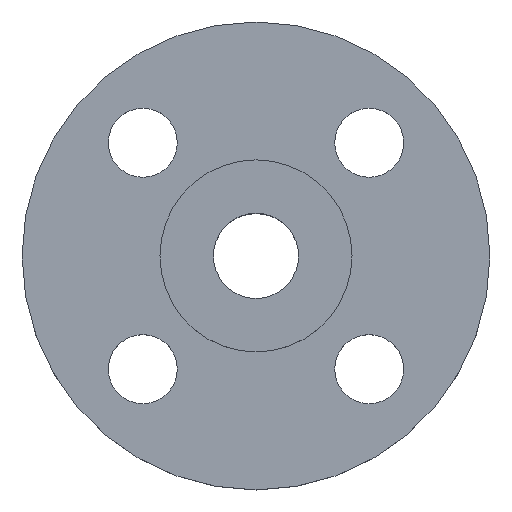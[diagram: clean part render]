
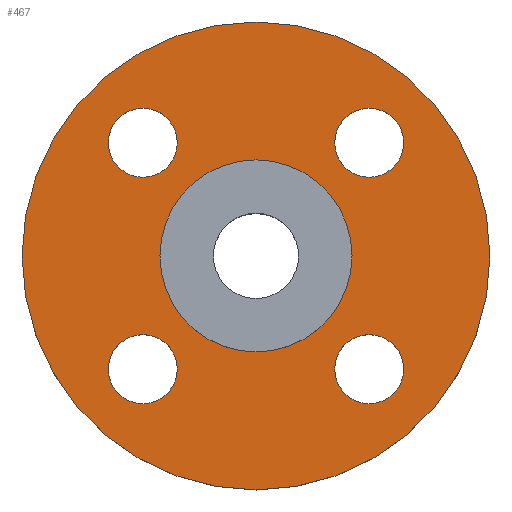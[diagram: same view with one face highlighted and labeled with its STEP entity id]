
A CAD part, top view. The second image highlights one B-rep face of the part: STEP entity #467.
In plain terms, the highlighted planar face has unit normal (0, 0, 1).
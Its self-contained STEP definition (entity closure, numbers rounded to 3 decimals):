
#1 = EDGE_CURVE ( 'NONE', #665, #774, #502, .T. ) ;
#2 = AXIS2_PLACEMENT_3D ( 'NONE', #354, #356, #357 ) ;
#18 = EDGE_CURVE ( 'NONE', #583, #641, #309, .T. ) ;
#30 = CIRCLE ( 'NONE', #31, 19.5 ) ;
#31 = AXIS2_PLACEMENT_3D ( 'NONE', #489, #490, #491 ) ;
#43 = EDGE_CURVE ( 'NONE', #609, #771, #376, .T. ) ;
#45 = CARTESIAN_POINT ( 'NONE',  ( -29.981, -22.981, -4.5 ) ) ;
#46 = CARTESIAN_POINT ( 'NONE',  ( -47.5, 0., -4.5 ) ) ;
#47 = CIRCLE ( 'NONE', #48, 7. ) ;
#48 = AXIS2_PLACEMENT_3D ( 'NONE', #329, #330, #328 ) ;
#89 = CARTESIAN_POINT ( 'NONE',  ( -22.981, 22.981, -4.5 ) ) ;
#92 = AXIS2_PLACEMENT_3D ( 'NONE', #89, #167, #336 ) ;
#94 = CIRCLE ( 'NONE', #92, 7. ) ;
#103 = AXIS2_PLACEMENT_3D ( 'NONE', #129, #128, #127 ) ;
#105 = AXIS2_PLACEMENT_3D ( 'NONE', #435, #446, #448 ) ;
#106 = CIRCLE ( 'NONE', #105, 7. ) ;
#127 = DIRECTION ( 'NONE',  ( 1., 0., 0. ) ) ;
#128 = DIRECTION ( 'NONE',  ( 0., 0., -1. ) ) ;
#129 = CARTESIAN_POINT ( 'NONE',  ( 22.981, 22.981, -4.5 ) ) ;
#139 = DIRECTION ( 'NONE',  ( 1., 0., 0. ) ) ;
#141 = EDGE_CURVE ( 'NONE', #770, #629, #161, .T. ) ;
#143 = CARTESIAN_POINT ( 'NONE',  ( -19.5, 0., -4.5 ) ) ;
#154 = CARTESIAN_POINT ( 'NONE',  ( 29.981, 22.981, -4.5 ) ) ;
#157 = AXIS2_PLACEMENT_3D ( 'NONE', #321, #561, #139 ) ;
#161 = CIRCLE ( 'NONE', #2, 7. ) ;
#166 = CARTESIAN_POINT ( 'NONE',  ( 47.5, 0., -4.5 ) ) ;
#167 = DIRECTION ( 'NONE',  ( 0., 0., -1. ) ) ;
#168 = CARTESIAN_POINT ( 'NONE',  ( 29.981, -22.981, -4.5 ) ) ;
#171 = DIRECTION ( 'NONE',  ( -1., 0., 0. ) ) ;
#172 = AXIS2_PLACEMENT_3D ( 'NONE', #807, #808, #809 ) ;
#173 = DIRECTION ( 'NONE',  ( 0., 0., -1. ) ) ;
#175 = CARTESIAN_POINT ( 'NONE',  ( 0., 0., -4.5 ) ) ;
#196 = CIRCLE ( 'NONE', #157, 7. ) ;
#224 = AXIS2_PLACEMENT_3D ( 'NONE', #814, #815, #816 ) ;
#227 = AXIS2_PLACEMENT_3D ( 'NONE', #252, #251, #249 ) ;
#246 = CARTESIAN_POINT ( 'NONE',  ( 15.981, 22.981, -4.5 ) ) ;
#249 = DIRECTION ( 'NONE',  ( -1., 0., 0. ) ) ;
#251 = DIRECTION ( 'NONE',  ( 0., 0., -1. ) ) ;
#252 = CARTESIAN_POINT ( 'NONE',  ( 0., 0., -4.5 ) ) ;
#270 = CARTESIAN_POINT ( 'NONE',  ( -29.981, 22.981, -4.5 ) ) ;
#298 = EDGE_CURVE ( 'NONE', #610, #568, #106, .T. ) ;
#304 = CIRCLE ( 'NONE', #227, 47.5 ) ;
#309 = CIRCLE ( 'NONE', #172, 7. ) ;
#317 = CARTESIAN_POINT ( 'NONE',  ( 15.981, -22.981, -4.5 ) ) ;
#318 = CARTESIAN_POINT ( 'NONE',  ( 19.5, 0., -4.5 ) ) ;
#321 = CARTESIAN_POINT ( 'NONE',  ( -22.981, -22.981, -4.5 ) ) ;
#324 = AXIS2_PLACEMENT_3D ( 'NONE', #175, #173, #171 ) ;
#328 = DIRECTION ( 'NONE',  ( 1., 0., 0. ) ) ;
#329 = CARTESIAN_POINT ( 'NONE',  ( 22.981, -22.981, -4.5 ) ) ;
#330 = DIRECTION ( 'NONE',  ( 0., 0., -1. ) ) ;
#336 = DIRECTION ( 'NONE',  ( 1., 0., 0. ) ) ;
#354 = CARTESIAN_POINT ( 'NONE',  ( 22.981, -22.981, -4.5 ) ) ;
#355 = CIRCLE ( 'NONE', #324, 19.5 ) ;
#356 = DIRECTION ( 'NONE',  ( 0., 0., -1. ) ) ;
#357 = DIRECTION ( 'NONE',  ( 1., 0., 0. ) ) ;
#375 = CIRCLE ( 'NONE', #103, 7. ) ;
#376 = CIRCLE ( 'NONE', #224, 47.5 ) ;
#382 = AXIS2_PLACEMENT_3D ( 'NONE', #507, #508, #509 ) ;
#408 = CARTESIAN_POINT ( 'NONE',  ( -15.981, 22.981, -4.5 ) ) ;
#430 = EDGE_CURVE ( 'NONE', #574, #783, #30, .T. ) ;
#435 = CARTESIAN_POINT ( 'NONE',  ( -22.981, -22.981, -4.5 ) ) ;
#446 = DIRECTION ( 'NONE',  ( 0., 0., -1. ) ) ;
#448 = DIRECTION ( 'NONE',  ( 1., 0., 0. ) ) ;
#467 = ADVANCED_FACE ( 'NONE', ( #499, #500, #501, #503, #504, #505 ), #506, .T. ) ;
#488 = AXIS2_PLACEMENT_3D ( 'NONE', #794, #795, #796 ) ;
#489 = CARTESIAN_POINT ( 'NONE',  ( 0., 0., -4.5 ) ) ;
#490 = DIRECTION ( 'NONE',  ( 0., 0., -1. ) ) ;
#491 = DIRECTION ( 'NONE',  ( -1., 0., 0. ) ) ;
#499 = FACE_BOUND ( 'NONE', #789, .T. ) ;
#500 = FACE_BOUND ( 'NONE', #597, .T. ) ;
#501 = FACE_BOUND ( 'NONE', #611, .T. ) ;
#502 = CIRCLE ( 'NONE', #488, 7. ) ;
#503 = FACE_BOUND ( 'NONE', #576, .T. ) ;
#504 = FACE_BOUND ( 'NONE', #780, .T. ) ;
#505 = FACE_OUTER_BOUND ( 'NONE', #784, .T. ) ;
#506 = PLANE ( 'NONE',  #382 ) ;
#507 = CARTESIAN_POINT ( 'NONE',  ( 19.5, 0., -4.5 ) ) ;
#508 = DIRECTION ( 'NONE',  ( 0., 0., 1. ) ) ;
#509 = DIRECTION ( 'NONE',  ( 1., 0., 0. ) ) ;
#551 = EDGE_CURVE ( 'NONE', #641, #583, #94, .T. ) ;
#552 = EDGE_CURVE ( 'NONE', #629, #770, #47, .T. ) ;
#556 = EDGE_CURVE ( 'NONE', #568, #610, #196, .T. ) ;
#561 = DIRECTION ( 'NONE',  ( 0., 0., -1. ) ) ;
#568 = VERTEX_POINT ( 'NONE', #823 ) ;
#574 = VERTEX_POINT ( 'NONE', #318 ) ;
#576 = EDGE_LOOP ( 'NONE', ( #739, #740 ) ) ;
#583 = VERTEX_POINT ( 'NONE', #408 ) ;
#597 = EDGE_LOOP ( 'NONE', ( #735, #736 ) ) ;
#609 = VERTEX_POINT ( 'NONE', #46 ) ;
#610 = VERTEX_POINT ( 'NONE', #45 ) ;
#611 = EDGE_LOOP ( 'NONE', ( #737, #738 ) ) ;
#629 = VERTEX_POINT ( 'NONE', #317 ) ;
#641 = VERTEX_POINT ( 'NONE', #270 ) ;
#661 = EDGE_CURVE ( 'NONE', #771, #609, #304, .T. ) ;
#665 = VERTEX_POINT ( 'NONE', #246 ) ;
#733 = ORIENTED_EDGE ( 'NONE', *, *, #141, .T. ) ;
#734 = ORIENTED_EDGE ( 'NONE', *, *, #552, .T. ) ;
#735 = ORIENTED_EDGE ( 'NONE', *, *, #556, .T. ) ;
#736 = ORIENTED_EDGE ( 'NONE', *, *, #298, .T. ) ;
#737 = ORIENTED_EDGE ( 'NONE', *, *, #18, .T. ) ;
#738 = ORIENTED_EDGE ( 'NONE', *, *, #551, .T. ) ;
#739 = ORIENTED_EDGE ( 'NONE', *, *, #810, .T. ) ;
#740 = ORIENTED_EDGE ( 'NONE', *, *, #1, .T. ) ;
#741 = ORIENTED_EDGE ( 'NONE', *, *, #763, .T. ) ;
#742 = ORIENTED_EDGE ( 'NONE', *, *, #430, .T. ) ;
#743 = ORIENTED_EDGE ( 'NONE', *, *, #661, .F. ) ;
#744 = ORIENTED_EDGE ( 'NONE', *, *, #43, .F. ) ;
#763 = EDGE_CURVE ( 'NONE', #783, #574, #355, .T. ) ;
#770 = VERTEX_POINT ( 'NONE', #168 ) ;
#771 = VERTEX_POINT ( 'NONE', #166 ) ;
#774 = VERTEX_POINT ( 'NONE', #154 ) ;
#780 = EDGE_LOOP ( 'NONE', ( #741, #742 ) ) ;
#783 = VERTEX_POINT ( 'NONE', #143 ) ;
#784 = EDGE_LOOP ( 'NONE', ( #743, #744 ) ) ;
#789 = EDGE_LOOP ( 'NONE', ( #733, #734 ) ) ;
#794 = CARTESIAN_POINT ( 'NONE',  ( 22.981, 22.981, -4.5 ) ) ;
#795 = DIRECTION ( 'NONE',  ( 0., 0., -1. ) ) ;
#796 = DIRECTION ( 'NONE',  ( 1., 0., 0. ) ) ;
#807 = CARTESIAN_POINT ( 'NONE',  ( -22.981, 22.981, -4.5 ) ) ;
#808 = DIRECTION ( 'NONE',  ( 0., 0., -1. ) ) ;
#809 = DIRECTION ( 'NONE',  ( 1., 0., 0. ) ) ;
#810 = EDGE_CURVE ( 'NONE', #774, #665, #375, .T. ) ;
#814 = CARTESIAN_POINT ( 'NONE',  ( 0., 0., -4.5 ) ) ;
#815 = DIRECTION ( 'NONE',  ( 0., 0., -1. ) ) ;
#816 = DIRECTION ( 'NONE',  ( -1., 0., 0. ) ) ;
#823 = CARTESIAN_POINT ( 'NONE',  ( -15.981, -22.981, -4.5 ) ) ;
